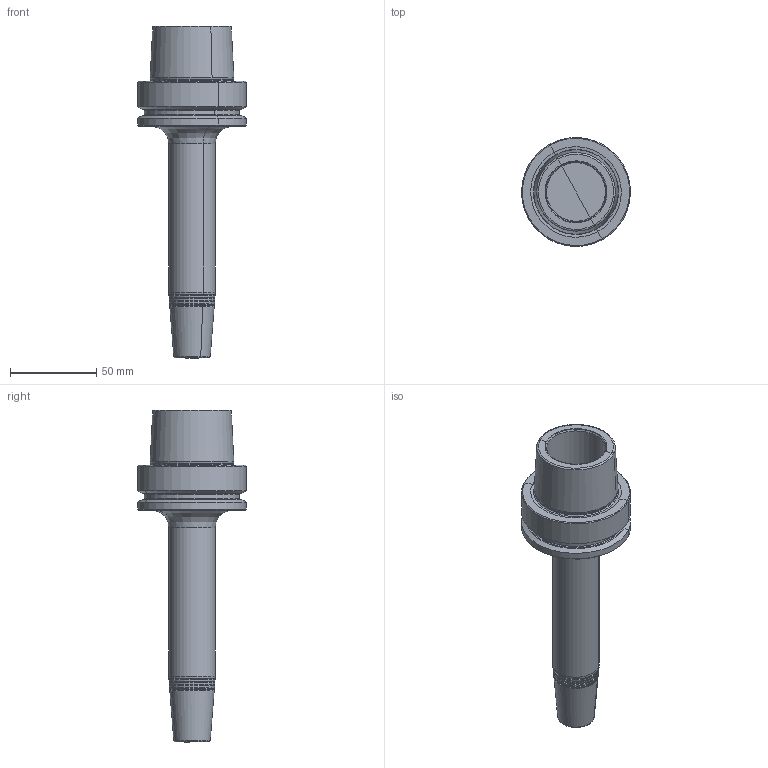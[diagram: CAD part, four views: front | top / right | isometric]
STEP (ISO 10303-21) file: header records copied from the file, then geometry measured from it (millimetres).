
FILE_DESCRIPTION(('CATIA V5 STEP','CAx-IF Rec.Pracs.--- Model Styling and Organization---1.2---2011-12-15'),'2;1');
FILE_NAME('I:\isr\design\admin8\users\raheeb_a\4504016 L.stp','2017-04-05T11:29:53+00:00',('none'),('none'),'CATIA Version 5 Release 21 SP 5 (IN-10)','CATIA V5 STEP AP214','none');
FILE_SCHEMA(('AUTOMOTIVE_DESIGN { 1 0 10303 214 1 1 1 1 }'));
Length unit declared in the file: millimetre
Products named in the file (1): HSK A 63 SRKIN 6X160
Bounding box: 62.98 x 62.98 x 192 mm (x, y, z)
Volume: 168009.6 mm3; surface area: 32307 mm2
Topology: 1 solids, 1 shells, 96 faces, 190 edges, 96 vertices
Faces by surface type: revolution 80, plane 16
Entity records: 3206 total; most frequent: CARTESIAN_POINT 1450, ORIENTED_EDGE 380, DIRECTION 212, EDGE_CURVE 190, B_SPLINE_CURVE_WITH_KNOTS 160, AXIS2_PLACEMENT_3D 106, ADVANCED_FACE 96, EDGE_LOOP 96
